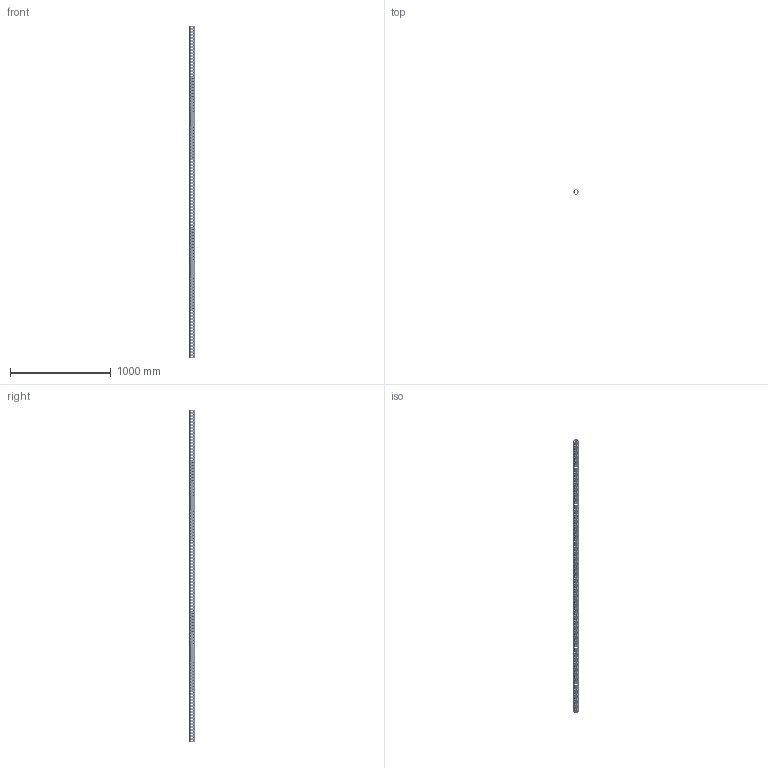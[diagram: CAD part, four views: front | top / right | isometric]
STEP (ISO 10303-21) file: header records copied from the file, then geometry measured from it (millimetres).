
FILE_DESCRIPTION(('CATIA V5 STEP Exchange'),'2;1');
FILE_NAME('U:\Room\唐宝山\EGT002\46-01-010339-01-EGT002-3298.stp','2021-08-24T07:28:52+00:00',('none'),('none'),'CATIA Version 5 Release 21 GA (IN-10)','CATIA V5 STEP AP203','none');
FILE_SCHEMA(('CONFIG_CONTROL_DESIGN'));
Products named in the file (1): 46-01-010339-01-EGT002-3298
Bounding box: 50 x 50 x 3298 mm (x, y, z)
Volume: 2349974 mm3; surface area: 1131781.4 mm2
Topology: 1 solids, 1 shells, 4484 faces, 12346 edges, 7644 vertices
Faces by surface type: cone 2640, cylinder 1818, plane 26
Entity records: 182170 total; most frequent: CARTESIAN_POINT 73383, ORIENTED_EDGE 24692, DIRECTION 17587, EDGE_CURVE 12346, AXIS2_PLACEMENT_3D 8354, VERTEX_POINT 7644, EDGE_LOOP 6026, VECTOR 4750
